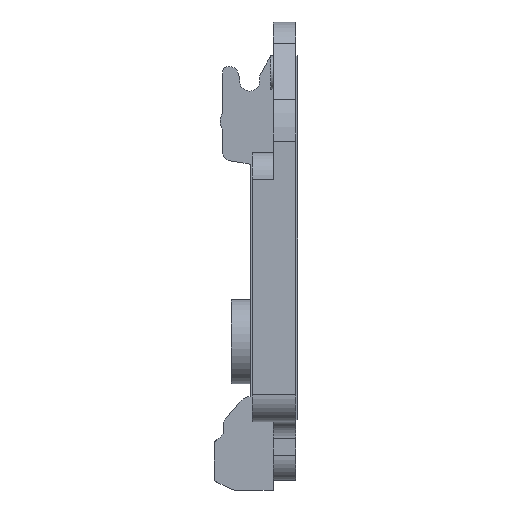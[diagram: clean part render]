
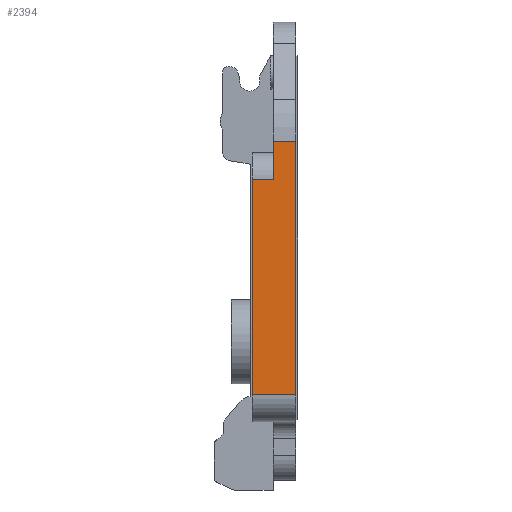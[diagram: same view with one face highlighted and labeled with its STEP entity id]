
A CAD part, left-side view. The second image highlights one B-rep face of the part: STEP entity #2394.
In plain terms, the highlighted planar face has unit normal (-1, 0, 0).
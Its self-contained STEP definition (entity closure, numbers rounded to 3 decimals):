
#174 = CARTESIAN_POINT ( 'NONE',  ( -27., 0., 41.325 ) ) ;
#185 = CARTESIAN_POINT ( 'NONE',  ( -27., 0., 11.205 ) ) ;
#225 = CARTESIAN_POINT ( 'NONE',  ( -27., 2.7, 41.325 ) ) ;
#244 = CARTESIAN_POINT ( 'NONE',  ( -27., 5.2, 11.205 ) ) ;
#246 = CARTESIAN_POINT ( 'NONE',  ( -27., 5.2, 36.805 ) ) ;
#255 = CARTESIAN_POINT ( 'NONE',  ( -27., 2.7, 36.805 ) ) ;
#397 = FACE_OUTER_BOUND ( 'NONE', #3239, .T. ) ;
#884 = LINE ( 'NONE', #1881, #888 ) ;
#888 = VECTOR ( 'NONE', #1878, 1000. ) ;
#933 = LINE ( 'NONE', #1947, #935 ) ;
#935 = VECTOR ( 'NONE', #1948, 1000. ) ;
#1042 = LINE ( 'NONE', #2113, #1062 ) ;
#1051 = LINE ( 'NONE', #2102, #1053 ) ;
#1053 = VECTOR ( 'NONE', #2103, 1000. ) ;
#1057 = LINE ( 'NONE', #2119, #1060 ) ;
#1059 = LINE ( 'NONE', #2112, #1064 ) ;
#1060 = VECTOR ( 'NONE', #2121, 1000. ) ;
#1062 = VECTOR ( 'NONE', #2122, 1000. ) ;
#1064 = VECTOR ( 'NONE', #2124, 1000. ) ;
#1259 = AXIS2_PLACEMENT_3D ( 'NONE', #3497, #3502, #3503 ) ;
#1878 = DIRECTION ( 'NONE',  ( 0., 0., 1. ) ) ;
#1881 = CARTESIAN_POINT ( 'NONE',  ( -27., 2.7, 36.805 ) ) ;
#1947 = CARTESIAN_POINT ( 'NONE',  ( -27., 0., 13.005 ) ) ;
#1948 = DIRECTION ( 'NONE',  ( 0., 0., -1. ) ) ;
#2102 = CARTESIAN_POINT ( 'NONE',  ( -27., 5.2, 36.805 ) ) ;
#2103 = DIRECTION ( 'NONE',  ( 0., 0., 1. ) ) ;
#2112 = CARTESIAN_POINT ( 'NONE',  ( -27., 1.6, 11.205 ) ) ;
#2113 = CARTESIAN_POINT ( 'NONE',  ( -27., 1.6, 36.805 ) ) ;
#2119 = CARTESIAN_POINT ( 'NONE',  ( -27., 30.82, 41.325 ) ) ;
#2121 = DIRECTION ( 'NONE',  ( 0., -1., 0. ) ) ;
#2122 = DIRECTION ( 'NONE',  ( 0., 1., 0. ) ) ;
#2124 = DIRECTION ( 'NONE',  ( 0., 1., 0. ) ) ;
#2394 = ADVANCED_FACE ( 'NONE', ( #397 ), #3499, .T. ) ;
#2500 = VERTEX_POINT ( 'NONE', #174 ) ;
#2501 = VERTEX_POINT ( 'NONE', #185 ) ;
#2610 = VERTEX_POINT ( 'NONE', #225 ) ;
#2633 = VERTEX_POINT ( 'NONE', #244 ) ;
#2635 = VERTEX_POINT ( 'NONE', #246 ) ;
#2661 = VERTEX_POINT ( 'NONE', #255 ) ;
#2875 = ORIENTED_EDGE ( 'NONE', *, *, #4402, .F. ) ;
#2876 = ORIENTED_EDGE ( 'NONE', *, *, #4302, .F. ) ;
#2877 = ORIENTED_EDGE ( 'NONE', *, *, #4403, .T. ) ;
#2878 = ORIENTED_EDGE ( 'NONE', *, *, #4398, .F. ) ;
#2879 = ORIENTED_EDGE ( 'NONE', *, *, #4404, .F. ) ;
#2880 = ORIENTED_EDGE ( 'NONE', *, *, #4330, .F. ) ;
#3239 = EDGE_LOOP ( 'NONE', ( #2875, #2876, #2877, #2878, #2879, #2880 ) ) ;
#3497 = CARTESIAN_POINT ( 'NONE',  ( -27., -33.596, 13.005 ) ) ;
#3499 = PLANE ( 'NONE',  #1259 ) ;
#3502 = DIRECTION ( 'NONE',  ( -1., 0., 0. ) ) ;
#3503 = DIRECTION ( 'NONE',  ( 0., 0., 1. ) ) ;
#4302 = EDGE_CURVE ( 'NONE', #2661, #2610, #884, .T. ) ;
#4330 = EDGE_CURVE ( 'NONE', #2500, #2501, #933, .T. ) ;
#4398 = EDGE_CURVE ( 'NONE', #2633, #2635, #1051, .T. ) ;
#4402 = EDGE_CURVE ( 'NONE', #2610, #2500, #1057, .T. ) ;
#4403 = EDGE_CURVE ( 'NONE', #2661, #2635, #1042, .T. ) ;
#4404 = EDGE_CURVE ( 'NONE', #2501, #2633, #1059, .T. ) ;
